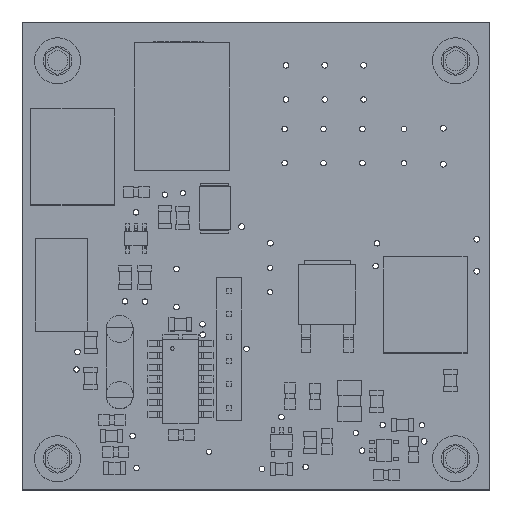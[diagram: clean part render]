
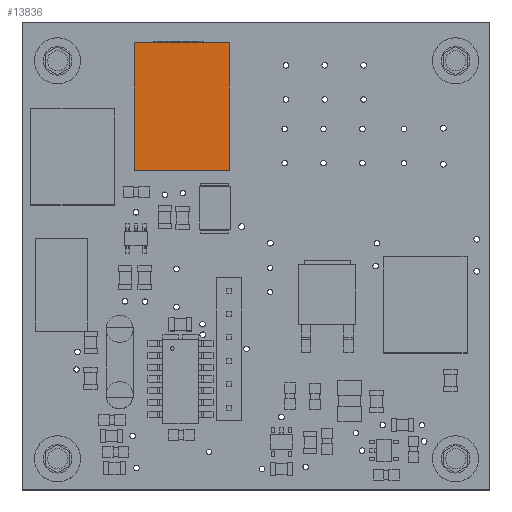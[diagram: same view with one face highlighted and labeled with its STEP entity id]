
A CAD part, top view. The second image highlights one B-rep face of the part: STEP entity #13836.
In plain terms, the highlighted planar face has unit normal (0, 0, 1).
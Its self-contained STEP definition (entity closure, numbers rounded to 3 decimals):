
#13522 = VERTEX_POINT('',#13523);
#13523 = CARTESIAN_POINT('',(-14.38,-5.829,9.));
#13530 = PLANE('',#13531);
#13531 = AXIS2_PLACEMENT_3D('',#13532,#13533,#13534);
#13532 = CARTESIAN_POINT('',(-14.38,-5.829,0.));
#13533 = DIRECTION('',(0.,1.,0.));
#13534 = DIRECTION('',(1.,0.,0.));
#13542 = PLANE('',#13543);
#13543 = AXIS2_PLACEMENT_3D('',#13544,#13545,#13546);
#13544 = CARTESIAN_POINT('',(-14.38,4.534,0.));
#13545 = DIRECTION('',(1.,0.,0.));
#13546 = DIRECTION('',(0.,-1.,0.));
#13554 = EDGE_CURVE('',#13522,#13555,#13557,.T.);
#13555 = VERTEX_POINT('',#13556);
#13556 = CARTESIAN_POINT('',(-0.495,-5.829,9.));
#13557 = SURFACE_CURVE('',#13558,(#13562,#13569),.PCURVE_S1.);
#13558 = LINE('',#13559,#13560);
#13559 = CARTESIAN_POINT('',(-14.38,-5.829,9.));
#13560 = VECTOR('',#13561,1.);
#13561 = DIRECTION('',(1.,0.,0.));
#13562 = PCURVE('',#13530,#13563);
#13563 = DEFINITIONAL_REPRESENTATION('',(#13564),#13568);
#13564 = LINE('',#13565,#13566);
#13565 = CARTESIAN_POINT('',(0.,-9.));
#13566 = VECTOR('',#13567,1.);
#13567 = DIRECTION('',(1.,0.));
#13568 = ( GEOMETRIC_REPRESENTATION_CONTEXT(2) 
PARAMETRIC_REPRESENTATION_CONTEXT() REPRESENTATION_CONTEXT('2D SPACE',''
  ) );
#13569 = PCURVE('',#13570,#13575);
#13570 = PLANE('',#13571);
#13571 = AXIS2_PLACEMENT_3D('',#13572,#13573,#13574);
#13572 = CARTESIAN_POINT('',(-14.38,-5.829,9.));
#13573 = DIRECTION('',(0.,0.,-1.));
#13574 = DIRECTION('',(-1.,0.,0.));
#13575 = DEFINITIONAL_REPRESENTATION('',(#13576),#13580);
#13576 = LINE('',#13577,#13578);
#13577 = CARTESIAN_POINT('',(0.,0.));
#13578 = VECTOR('',#13579,1.);
#13579 = DIRECTION('',(-1.,0.));
#13580 = ( GEOMETRIC_REPRESENTATION_CONTEXT(2) 
PARAMETRIC_REPRESENTATION_CONTEXT() REPRESENTATION_CONTEXT('2D SPACE',''
  ) );
#13598 = PLANE('',#13599);
#13599 = AXIS2_PLACEMENT_3D('',#13600,#13601,#13602);
#13600 = CARTESIAN_POINT('',(-0.495,-5.829,0.));
#13601 = DIRECTION('',(-1.,0.,0.));
#13602 = DIRECTION('',(0.,1.,0.));
#13640 = EDGE_CURVE('',#13555,#13641,#13643,.T.);
#13641 = VERTEX_POINT('',#13642);
#13642 = CARTESIAN_POINT('',(-0.495,4.534,9.));
#13643 = SURFACE_CURVE('',#13644,(#13648,#13655),.PCURVE_S1.);
#13644 = LINE('',#13645,#13646);
#13645 = CARTESIAN_POINT('',(-0.495,-5.829,9.));
#13646 = VECTOR('',#13647,1.);
#13647 = DIRECTION('',(0.,1.,0.));
#13648 = PCURVE('',#13598,#13649);
#13649 = DEFINITIONAL_REPRESENTATION('',(#13650),#13654);
#13650 = LINE('',#13651,#13652);
#13651 = CARTESIAN_POINT('',(0.,-9.));
#13652 = VECTOR('',#13653,1.);
#13653 = DIRECTION('',(1.,0.));
#13654 = ( GEOMETRIC_REPRESENTATION_CONTEXT(2) 
PARAMETRIC_REPRESENTATION_CONTEXT() REPRESENTATION_CONTEXT('2D SPACE',''
  ) );
#13655 = PCURVE('',#13570,#13656);
#13656 = DEFINITIONAL_REPRESENTATION('',(#13657),#13661);
#13657 = LINE('',#13658,#13659);
#13658 = CARTESIAN_POINT('',(-13.884,0.));
#13659 = VECTOR('',#13660,1.);
#13660 = DIRECTION('',(0.,1.));
#13661 = ( GEOMETRIC_REPRESENTATION_CONTEXT(2) 
PARAMETRIC_REPRESENTATION_CONTEXT() REPRESENTATION_CONTEXT('2D SPACE',''
  ) );
#13679 = PLANE('',#13680);
#13680 = AXIS2_PLACEMENT_3D('',#13681,#13682,#13683);
#13681 = CARTESIAN_POINT('',(-0.495,4.534,0.));
#13682 = DIRECTION('',(0.,-1.,0.));
#13683 = DIRECTION('',(-1.,0.,0.));
#13716 = EDGE_CURVE('',#13641,#13717,#13719,.T.);
#13717 = VERTEX_POINT('',#13718);
#13718 = CARTESIAN_POINT('',(-14.38,4.534,9.));
#13719 = SURFACE_CURVE('',#13720,(#13724,#13731),.PCURVE_S1.);
#13720 = LINE('',#13721,#13722);
#13721 = CARTESIAN_POINT('',(-0.495,4.534,9.));
#13722 = VECTOR('',#13723,1.);
#13723 = DIRECTION('',(-1.,0.,0.));
#13724 = PCURVE('',#13679,#13725);
#13725 = DEFINITIONAL_REPRESENTATION('',(#13726),#13730);
#13726 = LINE('',#13727,#13728);
#13727 = CARTESIAN_POINT('',(0.,-9.));
#13728 = VECTOR('',#13729,1.);
#13729 = DIRECTION('',(1.,0.));
#13730 = ( GEOMETRIC_REPRESENTATION_CONTEXT(2) 
PARAMETRIC_REPRESENTATION_CONTEXT() REPRESENTATION_CONTEXT('2D SPACE',''
  ) );
#13731 = PCURVE('',#13570,#13732);
#13732 = DEFINITIONAL_REPRESENTATION('',(#13733),#13737);
#13733 = LINE('',#13734,#13735);
#13734 = CARTESIAN_POINT('',(-13.884,10.363));
#13735 = VECTOR('',#13736,1.);
#13736 = DIRECTION('',(1.,0.));
#13737 = ( GEOMETRIC_REPRESENTATION_CONTEXT(2) 
PARAMETRIC_REPRESENTATION_CONTEXT() REPRESENTATION_CONTEXT('2D SPACE',''
  ) );
#13787 = EDGE_CURVE('',#13717,#13522,#13788,.T.);
#13788 = SURFACE_CURVE('',#13789,(#13793,#13800),.PCURVE_S1.);
#13789 = LINE('',#13790,#13791);
#13790 = CARTESIAN_POINT('',(-14.38,4.534,9.));
#13791 = VECTOR('',#13792,1.);
#13792 = DIRECTION('',(0.,-1.,0.));
#13793 = PCURVE('',#13542,#13794);
#13794 = DEFINITIONAL_REPRESENTATION('',(#13795),#13799);
#13795 = LINE('',#13796,#13797);
#13796 = CARTESIAN_POINT('',(0.,-9.));
#13797 = VECTOR('',#13798,1.);
#13798 = DIRECTION('',(1.,0.));
#13799 = ( GEOMETRIC_REPRESENTATION_CONTEXT(2) 
PARAMETRIC_REPRESENTATION_CONTEXT() REPRESENTATION_CONTEXT('2D SPACE',''
  ) );
#13800 = PCURVE('',#13570,#13801);
#13801 = DEFINITIONAL_REPRESENTATION('',(#13802),#13806);
#13802 = LINE('',#13803,#13804);
#13803 = CARTESIAN_POINT('',(0.,10.363));
#13804 = VECTOR('',#13805,1.);
#13805 = DIRECTION('',(0.,-1.));
#13806 = ( GEOMETRIC_REPRESENTATION_CONTEXT(2) 
PARAMETRIC_REPRESENTATION_CONTEXT() REPRESENTATION_CONTEXT('2D SPACE',''
  ) );
#13836 = ADVANCED_FACE('',(#13837),#13570,.F.);
#13837 = FACE_BOUND('',#13838,.T.);
#13838 = EDGE_LOOP('',(#13839,#13840,#13841,#13842));
#13839 = ORIENTED_EDGE('',*,*,#13554,.T.);
#13840 = ORIENTED_EDGE('',*,*,#13640,.T.);
#13841 = ORIENTED_EDGE('',*,*,#13716,.T.);
#13842 = ORIENTED_EDGE('',*,*,#13787,.T.);
